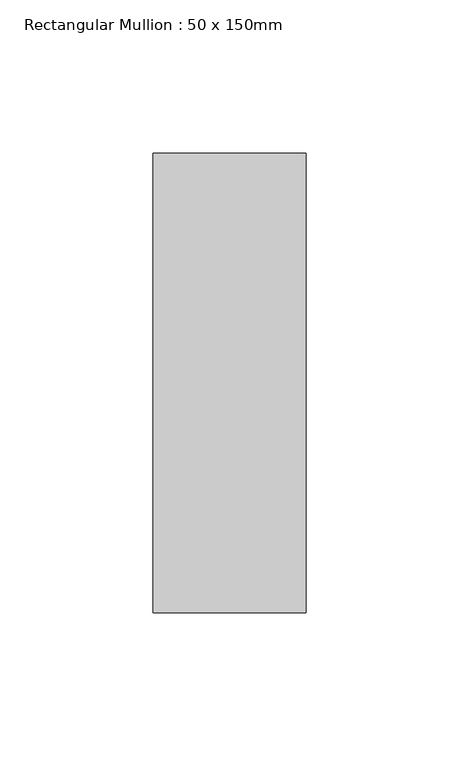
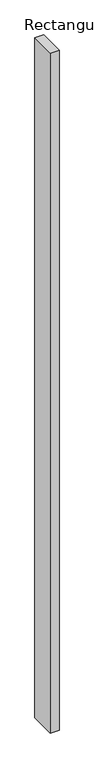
"""IFC4 building model written with IfcOpenShell, lengths in millimetres: member geometry, Rectangular Mullion : 50 x 150mm."""

from ifc_helpers import new_model, si_unit, frame, origin, place, context, project, spatial, polyline, outline, extrude, source, transform, mapped, element, save


def rectangular_mullion_50_x_150mm_591d99be(model_context):
    return source(origin(), model_context, "Body", "SweptSolid", [
        extrude(outline(polyline([(25.0, 75.0), (25.0, -75.0), (-25.0, -75.0), (-25.0, 75.0), (25.0, 75.0)])), frame((0.0, 0.0, -4066.0814338), z_axis=(0.0, 0.0, 1.0), x_axis=(1.0, 0.0, 0.0)), (0.0, 0.0, 1.0), 4066.0814338),
    ])


if __name__ == "__main__":
    model = new_model("IFC4")
    model_context = context("Model", 3, world=origin())
    ifc_project = project(units=[si_unit("LENGTHUNIT", "METRE", prefix="MILLI")], contexts=[model_context])
    site = spatial("IfcSite", under=ifc_project)
    building = spatial("IfcBuilding", under=site)
    placement = place(None, origin())
    rectangular_mullion_50_x_150mm_shape = rectangular_mullion_50_x_150mm_591d99be(model_context)
    element("IfcMember", 1, ObjectType="Rectangular Mullion : 50 x 150mm", at=placement, inside=building, context=model_context, shape_type="MappedRepresentation", body=[
        mapped(rectangular_mullion_50_x_150mm_shape, transform((0.0, 0.0, 0.0), x_axis=(1.0, 0.0, 0.0), y_axis=(0.0, 1.0, 0.0), z_axis=(0.0, 0.0, 1.0))),
    ])
    save(model, "model.ifc")
